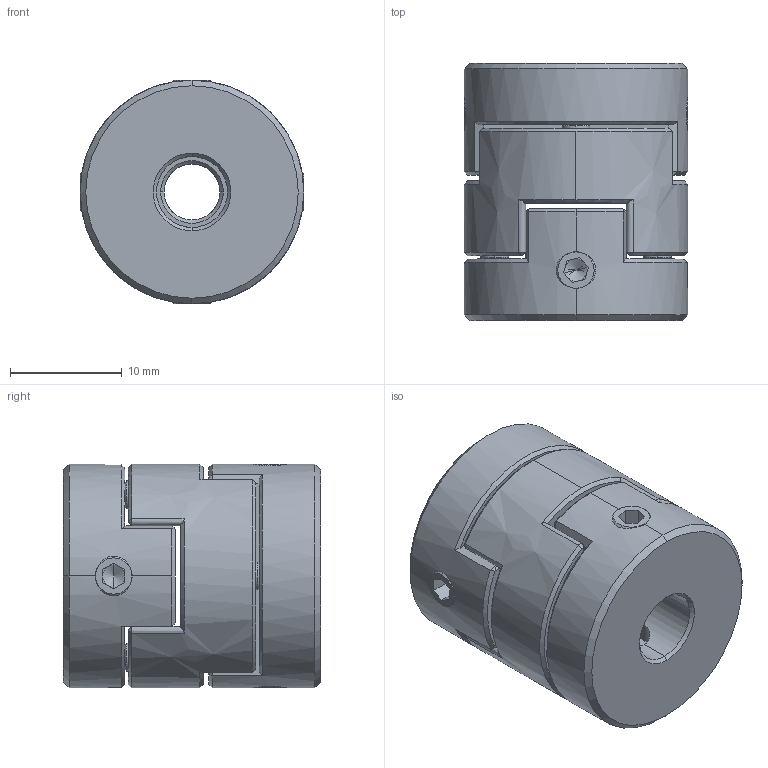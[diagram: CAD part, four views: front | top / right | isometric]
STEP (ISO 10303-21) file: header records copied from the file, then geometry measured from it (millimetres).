
FILE_DESCRIPTION (( 'STEP AP203' ), '1' );
FILE_NAME ('LZ-D-D20L23-5-6.35.STEP', '2021-10-30T01:42:47', ( '' ), ( '' ), 'SwSTEP 2.0', 'SolidWorks 2018', '' );
FILE_SCHEMA (( 'CONFIG_CONTROL_DESIGN' ));
Length unit declared in the file: millimetre
Products named in the file (1): LZ-D-D20L23-5-6.35
Bounding box: 20 x 23 x 20 mm (x, y, z)
Volume: 6221.3 mm3; surface area: 4116 mm2
Topology: 3 solids, 3 shells, 230 faces, 586 edges, 364 vertices
Faces by surface type: plane 116, cone 54, cylinder 34, bspline 26
Entity records: 9731 total; most frequent: CARTESIAN_POINT 4449, ORIENTED_EDGE 1156, DIRECTION 978, EDGE_CURVE 578, VERTEX_POINT 364, AXIS2_PLACEMENT_3D 357, VECTOR 264, LINE 264
